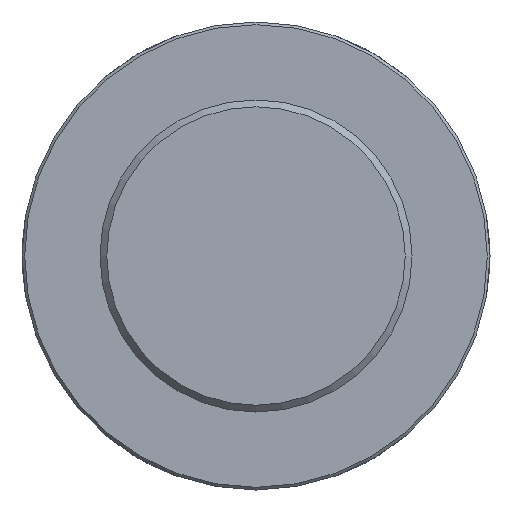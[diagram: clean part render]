
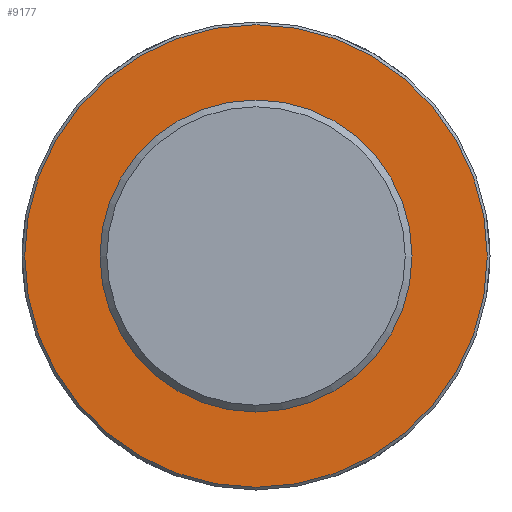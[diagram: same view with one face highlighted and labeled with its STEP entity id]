
A CAD part, front view. The second image highlights one B-rep face of the part: STEP entity #9177.
In plain terms, the highlighted planar face has unit normal (0, -1, 0) as drawn and (0, 1, 0) by its records, which use the part's own axes.
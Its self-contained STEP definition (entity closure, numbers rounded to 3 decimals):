
#73=CIRCLE('',#9540,170.5);
#1310=FACE_OUTER_BOUND('',#1869,.T.);
#1869=EDGE_LOOP('',(#8405));
#4449=VERTEX_POINT('',#16601);
#5771=EDGE_CURVE('',#4449,#4449,#73,.T.);
#8405=ORIENTED_EDGE('',*,*,#5771,.F.);
#8689=PLANE('',#9543);
#9177=ADVANCED_FACE('',(#1310),#8689,.T.);
#9540=AXIS2_PLACEMENT_3D('',#16602,#10970,#10971);
#9543=AXIS2_PLACEMENT_3D('',#16840,#10976,#10977);
#10970=DIRECTION('center_axis',(0.,-1.,0.));
#10971=DIRECTION('ref_axis',(1.,0.,0.));
#10976=DIRECTION('center_axis',(0.,1.,0.));
#10977=DIRECTION('ref_axis',(0.,0.,1.));
#16601=CARTESIAN_POINT('',(-170.5,160.,0.));
#16602=CARTESIAN_POINT('Origin',(0.,160.,0.));
#16840=CARTESIAN_POINT('Origin',(0.,160.,0.));
